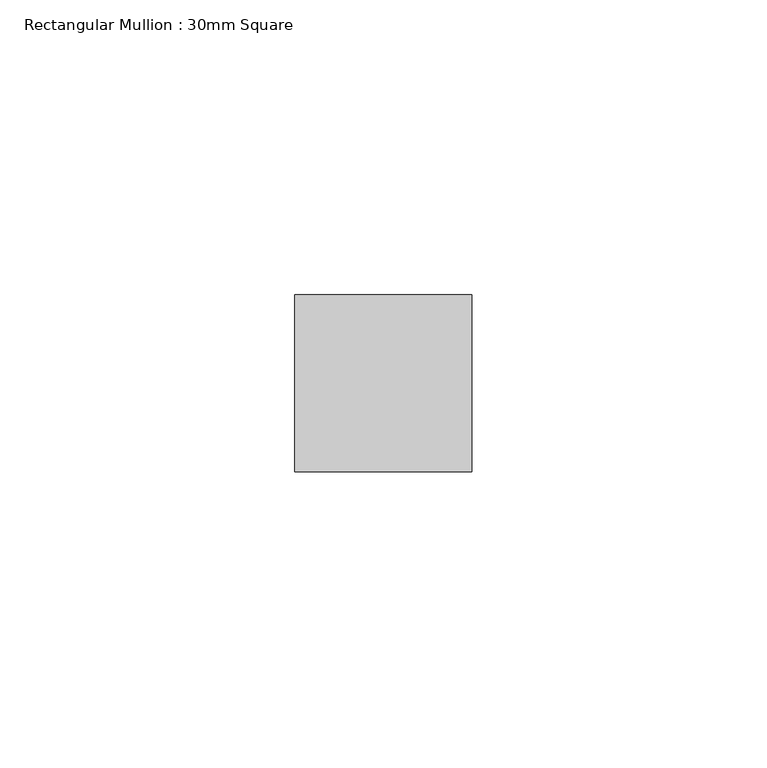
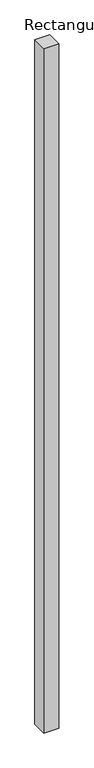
"""IFC4 building model written with IfcOpenShell, lengths in millimetres: member geometry, Rectangular Mullion : 30mm Square."""

from ifc_helpers import new_model, si_unit, frame, origin, place, context, project, spatial, polyline, outline, extrude, source, transform, mapped, element, save


def rectangular_mullion_30mm_square_f3bc5244(model_context):
    return source(origin(), model_context, "Body", "SweptSolid", [
        extrude(outline(polyline([(15.0, 15.0), (15.0, -15.0), (-15.0, -15.0), (-15.0, 15.0), (15.0, 15.0)])), frame((0.0, 0.0, -1440.0), z_axis=(0.0, 0.0, 1.0), x_axis=(1.0, 0.0, 0.0)), (0.0, 0.0, 1.0), 1440.0),
    ])


if __name__ == "__main__":
    model = new_model("IFC4")
    model_context = context("Model", 3, world=origin())
    ifc_project = project(units=[si_unit("LENGTHUNIT", "METRE", prefix="MILLI")], contexts=[model_context])
    site = spatial("IfcSite", under=ifc_project)
    building = spatial("IfcBuilding", under=site)
    placement = place(None, origin())
    rectangular_mullion_30mm_square_shape = rectangular_mullion_30mm_square_f3bc5244(model_context)
    element("IfcMember", 1, ObjectType="Rectangular Mullion : 30mm Square", at=placement, inside=building, context=model_context, shape_type="MappedRepresentation", body=[
        mapped(rectangular_mullion_30mm_square_shape, transform((0.0, 0.0, 0.0), x_axis=(1.0, 0.0, 0.0), y_axis=(0.0, 1.0, 0.0), z_axis=(0.0, 0.0, 1.0))),
    ])
    save(model, "model.ifc")
